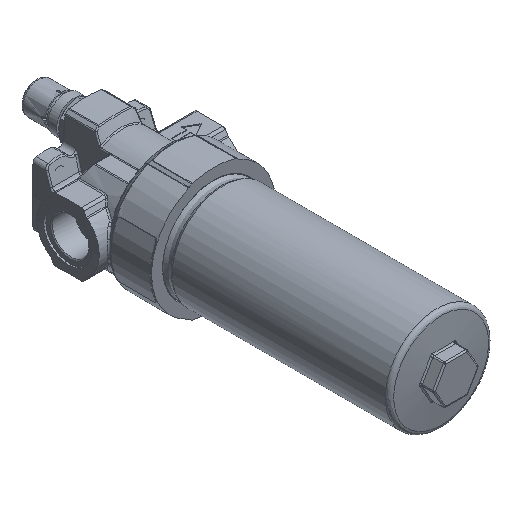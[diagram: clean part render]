
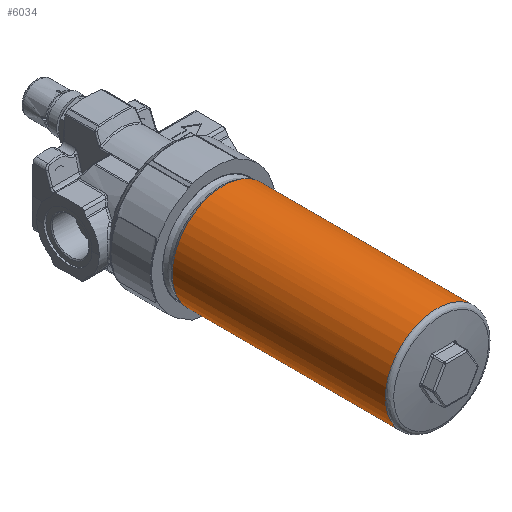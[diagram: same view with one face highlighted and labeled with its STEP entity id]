
A CAD part, isometric view. The second image highlights one B-rep face of the part: STEP entity #6034.
In plain terms, the highlighted free-form (B-spline) face has degree [2, 1] with [7, 2] control points.
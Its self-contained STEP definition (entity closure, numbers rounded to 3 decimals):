
#5924=CARTESIAN_POINT('V519',(-65.874,
   -157.502,-19.388));
#5925=VERTEX_POINT('V519',#5924);
#5939=CARTESIAN_POINT('E903',(-65.874,
   -157.502,-19.388));
#5940=CARTESIAN_POINT('E903',(-65.874,
   -157.502,-17.657));
#5941=CARTESIAN_POINT('E903',(-65.619,
   -157.502,-14.195));
#5942=CARTESIAN_POINT('E903',(-64.478,
   -157.502,-9.116));
#5943=CARTESIAN_POINT('E903',(-62.604,
   -157.502,-4.258));
#5944=CARTESIAN_POINT('E903',(-60.037,
   -157.502,0.272));
#5945=CARTESIAN_POINT('E903',(-56.833,
   -157.502,4.376));
#5946=CARTESIAN_POINT('E903',(-53.061,
   -157.502,7.965));
#5947=CARTESIAN_POINT('E903',(-48.803,
   -157.502,10.962));
#5948=CARTESIAN_POINT('E903',(-43.735,
   -157.502,13.511));
#5949=CARTESIAN_POINT('E903',(-37.856,
   -157.502,15.323));
#5950=CARTESIAN_POINT('E903',(-31.279,
   -157.502,16.062));
#5951=CARTESIAN_POINT('E903',(-24.678,
   -157.502,15.566));
#5952=CARTESIAN_POINT('E903',(-18.02,
   -157.502,13.781));
#5953=CARTESIAN_POINT('E903',(-11.589,
   -157.502,10.59));
#5954=CARTESIAN_POINT('E903',(-5.88,
   -157.502,6.059));
#5955=CARTESIAN_POINT('E903',(-1.313,
   -157.502,0.599));
#5956=CARTESIAN_POINT('E903',(2.023,-157.502,
   -5.504));
#5957=CARTESIAN_POINT('E903',(4.105,-157.502,
   -12.14));
#5958=CARTESIAN_POINT('E903',(4.844,-157.502,
   -18.989));
#5959=CARTESIAN_POINT('E903',(4.258,-157.502,
   -25.786));
#5960=CARTESIAN_POINT('E903',(2.412,-157.502,
   -32.286));
#5961=CARTESIAN_POINT('E903',(-0.634,
   -157.502,-38.318));
#5962=CARTESIAN_POINT('E903',(-4.724,
   -157.502,-43.604));
#5963=CARTESIAN_POINT('E903',(-9.673,
   -157.502,-47.985));
#5964=CARTESIAN_POINT('E903',(-15.279,
   -157.502,-51.345));
#5965=CARTESIAN_POINT('E903',(-21.406,
   -157.502,-53.619));
#5966=CARTESIAN_POINT('E903',(-28.734,
   -157.502,-54.883));
#5967=CARTESIAN_POINT('E903',(-37.098,
   -157.502,-54.449));
#5968=CARTESIAN_POINT('E903',(-45.051,
   -157.502,-51.872));
#5969=CARTESIAN_POINT('E903',(-51.42,
   -157.502,-48.095));
#5970=CARTESIAN_POINT('E903',(-56.366,
   -157.502,-43.769));
#5971=CARTESIAN_POINT('E903',(-60.473,
   -157.502,-38.536));
#5972=CARTESIAN_POINT('E903',(-63.554,
   -157.502,-32.55));
#5973=CARTESIAN_POINT('E903',(-65.448,
   -157.502,-26.09));
#5974=CARTESIAN_POINT('E903',(-65.874,
   -157.502,-21.621));
#5975=CARTESIAN_POINT('E903',(-65.874,
   -157.502,-19.388));
#5976=B_SPLINE_CURVE_WITH_KNOTS('E903',3,(#5939,#5940,#5941,#5942,
   #5943,#5944,#5945,#5946,#5947,#5948,#5949,#5950,#5951,#5952,#5953,
   #5954,#5955,#5956,#5957,#5958,#5959,#5960,#5961,#5962,#5963,#5964,
   #5965,#5966,#5967,#5968,#5969,#5970,#5971,#5972,#5973,#5974,#5975),
   .UNSPECIFIED.,.T.,.U.,(4,1,1,1,1,1,1,1,1,1,1,1,1,1,1,1,1,1,1,1,1,
   1,1,1,1,1,1,1,1,1,1,1,1,1,4),(2.0,3.067,
   4.134,5.201,6.269,
   7.336,8.403,9.47,
   10.537,11.891,13.246,
   14.6,15.954,17.477,
   19.,20.422,21.845,
   23.267,24.689,26.071,
   27.453,28.836,30.218,
   31.555,32.892,34.23,
   35.567,37.457,39.347,
   40.675,42.003,43.381,
   44.758,46.135,47.512),
   .UNSPECIFIED.);
#5977=EDGE_CURVE('E903',#5925,#5925,#5976,.T.);
#5984=CARTESIAN_POINT('F378',(-65.874,
   -11.371,-19.388));
#5985=CARTESIAN_POINT('F378',(-65.874,
   -11.371,-80.443));
#5986=CARTESIAN_POINT('F378',(-12.999,
   -11.371,-49.915));
#5987=CARTESIAN_POINT('F378',(39.876,-11.371,
   -19.388));
#5988=CARTESIAN_POINT('F378',(-12.999,
   -11.371,11.14));
#5989=CARTESIAN_POINT('F378',(-65.874,
   -11.371,41.667));
#5990=CARTESIAN_POINT('F378',(-65.874,
   -11.371,-19.388));
#5991=CARTESIAN_POINT('F378',(-65.874,
   -160.251,-19.388));
#5992=CARTESIAN_POINT('F378',(-65.874,
   -160.251,-80.443));
#5993=CARTESIAN_POINT('F378',(-12.999,
   -160.251,-49.915));
#5994=CARTESIAN_POINT('F378',(39.876,
   -160.251,-19.388));
#5995=CARTESIAN_POINT('F378',(-12.999,
   -160.251,11.14));
#5996=CARTESIAN_POINT('F378',(-65.874,
   -160.251,41.667));
#5997=CARTESIAN_POINT('F378',(-65.874,
   -160.251,-19.388));
#6005=(BOUNDED_SURFACE()B_SPLINE_SURFACE(2,1,((#5984,#5991),(
   #5985,#5992),(#5986,#5993),(#5987,#5994),(#5988,#5995),(
   #5989,#5996),(#5990,#5997)),.CYLINDRICAL_SURF.,.T.,.F.,.U.)
   B_SPLINE_SURFACE_WITH_KNOTS((3,2,2,3),(2,2),(0.0,
   0.82,1.64,2.461),(0.0,1.0),
   .UNSPECIFIED.)GEOMETRIC_REPRESENTATION_ITEM()
   RATIONAL_B_SPLINE_SURFACE(((1.0,1.0),(0.5,
   0.5),(1.0,1.0),(0.5,
   0.5),(1.0,1.0),(0.5,
   0.5),(1.0,1.0)))REPRESENTATION_ITEM('F378')
   SURFACE());
#6006=ORIENTED_EDGE('E903',*,*,#5977,.T.);
#6007=CARTESIAN_POINT('V520',(-65.874,
   -11.371,-19.388));
#6008=VERTEX_POINT('V520',#6007);
#6009=CARTESIAN_POINT('E904',(-65.874,
   -157.502,-19.388));
#6010=CARTESIAN_POINT('E904',(-65.874,
   -11.371,-19.388));
#6011=B_SPLINE_CURVE_WITH_KNOTS('E904',1,(#6009,#6010),
   .POLYLINE_FORM.,.F.,.U.,(2,2),(0.018,1.0),
   .UNSPECIFIED.);
#6012=EDGE_CURVE('E904',#5925,#6008,#6011,.T.);
#6013=ORIENTED_EDGE('E904',*,*,#6012,.T.);
#6014=CARTESIAN_POINT('E905',(-65.874,
   -11.371,-19.388));
#6015=CARTESIAN_POINT('E905',(-65.874,
   -11.371,-80.443));
#6016=CARTESIAN_POINT('E905',(-12.999,
   -11.371,-49.915));
#6017=CARTESIAN_POINT('E905',(39.876,-11.371,
   -19.388));
#6018=CARTESIAN_POINT('E905',(-12.999,
   -11.371,11.14));
#6019=CARTESIAN_POINT('E905',(-65.874,
   -11.371,41.667));
#6020=CARTESIAN_POINT('E905',(-65.874,
   -11.371,-19.388));
#6028=(BOUNDED_CURVE()B_SPLINE_CURVE(2,(#6014,#6015,#6016,#6017,
   #6018,#6019,#6020),.CIRCULAR_ARC.,.T.,.U.)
   B_SPLINE_CURVE_WITH_KNOTS((3,2,2,3),(0.0,0.82,
   1.64,2.461),.UNSPECIFIED.)CURVE()
   GEOMETRIC_REPRESENTATION_ITEM()RATIONAL_B_SPLINE_CURVE((1.0,
   0.5,1.0,0.5,1.0,0.5,1.0)
   )REPRESENTATION_ITEM('E905'));
#6029=EDGE_CURVE('E905',#6008,#6008,#6028,.T.);
#6030=ORIENTED_EDGE('E905',*,*,#6029,.T.);
#6031=ORIENTED_EDGE('E904',*,*,#6012,.F.);
#6032=EDGE_LOOP('F378',(#6006,#6013,#6030,#6031));
#6033=FACE_OUTER_BOUND('F378',#6032,.T.);
#6034=ADVANCED_FACE('F378',(#6033),#6005,.T.);
